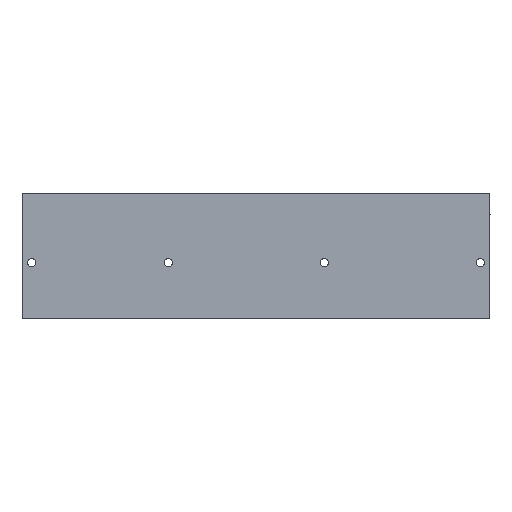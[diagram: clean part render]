
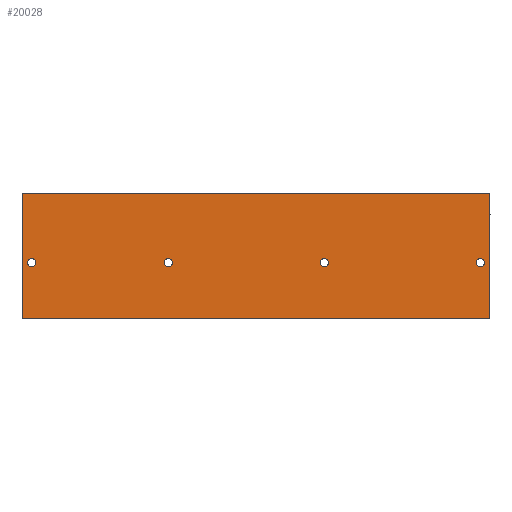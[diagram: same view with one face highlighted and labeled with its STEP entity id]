
A CAD part, front view. The second image highlights one B-rep face of the part: STEP entity #20028.
In plain terms, the highlighted planar face has unit normal (0, -1, 0).
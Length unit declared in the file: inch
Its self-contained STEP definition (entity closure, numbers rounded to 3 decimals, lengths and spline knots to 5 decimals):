
#794 = DIRECTION ( 'NONE',  ( 0., 1., 0. ) ) ;
#832 = DIRECTION ( 'NONE',  ( 0., 1., 0. ) ) ;
#873 = VECTOR ( 'NONE', #10802, 39.37008 ) ;
#1033 = EDGE_LOOP ( 'NONE', ( #31259, #5307 ) ) ;
#2551 = EDGE_CURVE ( 'NONE', #5039, #13147, #22939, .T. ) ;
#3803 = DIRECTION ( 'NONE',  ( 0., 1., 0. ) ) ;
#3935 = VERTEX_POINT ( 'NONE', #10216 ) ;
#4069 = CARTESIAN_POINT ( 'NONE',  ( 12.6, 0., -2.728 ) ) ;
#4794 = FACE_OUTER_BOUND ( 'NONE', #6541, .T. ) ;
#5039 = VERTEX_POINT ( 'NONE', #14691 ) ;
#5275 = VECTOR ( 'NONE', #32898, 39.37008 ) ;
#5285 = EDGE_LOOP ( 'NONE', ( #10018, #11753 ) ) ;
#5307 = ORIENTED_EDGE ( 'NONE', *, *, #10242, .T. ) ;
#5323 = AXIS2_PLACEMENT_3D ( 'NONE', #29349, #13474, #32018 ) ;
#5647 = VERTEX_POINT ( 'NONE', #16361 ) ;
#6145 = DIRECTION ( 'NONE',  ( 0., 1., 0. ) ) ;
#6250 = DIRECTION ( 'NONE',  ( 0., 1., 0. ) ) ;
#6541 = EDGE_LOOP ( 'NONE', ( #10881, #25867, #9621, #11345 ) ) ;
#6987 = EDGE_LOOP ( 'NONE', ( #30875, #18480 ) ) ;
#8158 = CIRCLE ( 'NONE', #14475, 0.172 ) ;
#8610 = DIRECTION ( 'NONE',  ( 0., 1., 0. ) ) ;
#8726 = VECTOR ( 'NONE', #34260, 39.37008 ) ;
#9621 = ORIENTED_EDGE ( 'NONE', *, *, #19410, .F. ) ;
#10018 = ORIENTED_EDGE ( 'NONE', *, *, #12045, .T. ) ;
#10216 = CARTESIAN_POINT ( 'NONE',  ( 19.1, 0., -3.072 ) ) ;
#10242 = EDGE_CURVE ( 'NONE', #11164, #29631, #14952, .T. ) ;
#10533 = CARTESIAN_POINT ( 'NONE',  ( 0., 0., -5.25 ) ) ;
#10802 = DIRECTION ( 'NONE',  ( -1., 0., 0. ) ) ;
#10881 = ORIENTED_EDGE ( 'NONE', *, *, #18117, .T. ) ;
#11048 = CARTESIAN_POINT ( 'NONE',  ( 19.1, 0., -2.9 ) ) ;
#11100 = CARTESIAN_POINT ( 'NONE',  ( 6.1, 0., -2.728 ) ) ;
#11164 = VERTEX_POINT ( 'NONE', #19639 ) ;
#11228 = EDGE_CURVE ( 'NONE', #29631, #11164, #30662, .T. ) ;
#11345 = ORIENTED_EDGE ( 'NONE', *, *, #2551, .T. ) ;
#11358 = DIRECTION ( 'NONE',  ( 0., 1., 0. ) ) ;
#11578 = EDGE_CURVE ( 'NONE', #14710, #13734, #13628, .T. ) ;
#11753 = ORIENTED_EDGE ( 'NONE', *, *, #21423, .T. ) ;
#12042 = CARTESIAN_POINT ( 'NONE',  ( 0., 0., 0. ) ) ;
#12045 = EDGE_CURVE ( 'NONE', #31160, #28629, #29359, .T. ) ;
#13147 = VERTEX_POINT ( 'NONE', #16040 ) ;
#13371 = LINE ( 'NONE', #27421, #5275 ) ;
#13474 = DIRECTION ( 'NONE',  ( 0., 1., 0. ) ) ;
#13628 = CIRCLE ( 'NONE', #26977, 0.172 ) ;
#13734 = VERTEX_POINT ( 'NONE', #26512 ) ;
#13803 = DIRECTION ( 'NONE',  ( 0., 0., 1. ) ) ;
#13826 = EDGE_CURVE ( 'NONE', #34123, #29530, #15327, .T. ) ;
#14475 = AXIS2_PLACEMENT_3D ( 'NONE', #22318, #6250, #24951 ) ;
#14562 = EDGE_CURVE ( 'NONE', #5647, #3935, #30593, .T. ) ;
#14691 = CARTESIAN_POINT ( 'NONE',  ( 19.5, 0., 0. ) ) ;
#14710 = VERTEX_POINT ( 'NONE', #4069 ) ;
#14952 = CIRCLE ( 'NONE', #5323, 0.172 ) ;
#15327 = LINE ( 'NONE', #24055, #873 ) ;
#16040 = CARTESIAN_POINT ( 'NONE',  ( 0., 0., 0. ) ) ;
#16361 = CARTESIAN_POINT ( 'NONE',  ( 19.1, 0., -2.728 ) ) ;
#17019 = PLANE ( 'NONE',  #18036 ) ;
#17066 = CARTESIAN_POINT ( 'NONE',  ( 12.6, 0., -2.9 ) ) ;
#17605 = ORIENTED_EDGE ( 'NONE', *, *, #11578, .T. ) ;
#18036 = AXIS2_PLACEMENT_3D ( 'NONE', #19555, #794, #19668 ) ;
#18117 = EDGE_CURVE ( 'NONE', #13147, #29530, #23773, .T. ) ;
#18480 = ORIENTED_EDGE ( 'NONE', *, *, #23423, .T. ) ;
#19017 = CARTESIAN_POINT ( 'NONE',  ( 19.5, 0., -5.25 ) ) ;
#19168 = FACE_BOUND ( 'NONE', #1033, .T. ) ;
#19410 = EDGE_CURVE ( 'NONE', #5039, #34123, #13371, .T. ) ;
#19555 = CARTESIAN_POINT ( 'NONE',  ( 19.5, 0., 0. ) ) ;
#19592 = CIRCLE ( 'NONE', #31454, 0.172 ) ;
#19639 = CARTESIAN_POINT ( 'NONE',  ( 6.1, 0., -3.072 ) ) ;
#19668 = DIRECTION ( 'NONE',  ( 0., 0., 1. ) ) ;
#19704 = DIRECTION ( 'NONE',  ( 0., 0., 1. ) ) ;
#19972 = CARTESIAN_POINT ( 'NONE',  ( 6.1, 0., -2.9 ) ) ;
#20028 = ADVANCED_FACE ( 'NONE', ( #19168, #33224, #32386, #25295, #4794 ), #17019, .F. ) ;
#21423 = EDGE_CURVE ( 'NONE', #28629, #31160, #34241, .T. ) ;
#22218 = CARTESIAN_POINT ( 'NONE',  ( 0.4, 0., -2.9 ) ) ;
#22318 = CARTESIAN_POINT ( 'NONE',  ( 12.6, 0., -2.9 ) ) ;
#22608 = DIRECTION ( 'NONE',  ( 0., 0., 1. ) ) ;
#22939 = LINE ( 'NONE', #34692, #8726 ) ;
#23423 = EDGE_CURVE ( 'NONE', #3935, #5647, #19592, .T. ) ;
#23773 = LINE ( 'NONE', #12042, #30876 ) ;
#24055 = CARTESIAN_POINT ( 'NONE',  ( 19.5, 0., -5.25 ) ) ;
#24587 = CARTESIAN_POINT ( 'NONE',  ( 0.4, 0., -2.9 ) ) ;
#24847 = DIRECTION ( 'NONE',  ( 0., 0., 1. ) ) ;
#24951 = DIRECTION ( 'NONE',  ( 0., 0., 1. ) ) ;
#25295 = FACE_BOUND ( 'NONE', #6987, .T. ) ;
#25346 = EDGE_LOOP ( 'NONE', ( #17605, #33324 ) ) ;
#25348 = DIRECTION ( 'NONE',  ( 0., 0., -1. ) ) ;
#25777 = CARTESIAN_POINT ( 'NONE',  ( 0.4, 0., -3.072 ) ) ;
#25867 = ORIENTED_EDGE ( 'NONE', *, *, #13826, .F. ) ;
#26001 = AXIS2_PLACEMENT_3D ( 'NONE', #24587, #8610, #27268 ) ;
#26512 = CARTESIAN_POINT ( 'NONE',  ( 12.6, 0., -3.072 ) ) ;
#26977 = AXIS2_PLACEMENT_3D ( 'NONE', #17066, #832, #19704 ) ;
#27258 = CARTESIAN_POINT ( 'NONE',  ( 19.1, 0., -2.9 ) ) ;
#27268 = DIRECTION ( 'NONE',  ( 0., 0., 1. ) ) ;
#27421 = CARTESIAN_POINT ( 'NONE',  ( 19.5, 0., 0. ) ) ;
#27687 = AXIS2_PLACEMENT_3D ( 'NONE', #19972, #3803, #22608 ) ;
#28629 = VERTEX_POINT ( 'NONE', #25777 ) ;
#29349 = CARTESIAN_POINT ( 'NONE',  ( 6.1, 0., -2.9 ) ) ;
#29359 = CIRCLE ( 'NONE', #26001, 0.172 ) ;
#29530 = VERTEX_POINT ( 'NONE', #10533 ) ;
#29629 = CARTESIAN_POINT ( 'NONE',  ( 0.4, 0., -2.728 ) ) ;
#29631 = VERTEX_POINT ( 'NONE', #11100 ) ;
#29684 = DIRECTION ( 'NONE',  ( 0., 1., 0. ) ) ;
#29916 = AXIS2_PLACEMENT_3D ( 'NONE', #27258, #11358, #29967 ) ;
#29967 = DIRECTION ( 'NONE',  ( 0., 0., 1. ) ) ;
#30593 = CIRCLE ( 'NONE', #29916, 0.172 ) ;
#30662 = CIRCLE ( 'NONE', #27687, 0.172 ) ;
#30834 = AXIS2_PLACEMENT_3D ( 'NONE', #22218, #6145, #24847 ) ;
#30875 = ORIENTED_EDGE ( 'NONE', *, *, #14562, .T. ) ;
#30876 = VECTOR ( 'NONE', #25348, 39.37008 ) ;
#31160 = VERTEX_POINT ( 'NONE', #29629 ) ;
#31259 = ORIENTED_EDGE ( 'NONE', *, *, #11228, .T. ) ;
#31454 = AXIS2_PLACEMENT_3D ( 'NONE', #11048, #29684, #13803 ) ;
#32018 = DIRECTION ( 'NONE',  ( 0., 0., 1. ) ) ;
#32386 = FACE_BOUND ( 'NONE', #5285, .T. ) ;
#32750 = EDGE_CURVE ( 'NONE', #13734, #14710, #8158, .T. ) ;
#32898 = DIRECTION ( 'NONE',  ( 0., 0., -1. ) ) ;
#33224 = FACE_BOUND ( 'NONE', #25346, .T. ) ;
#33324 = ORIENTED_EDGE ( 'NONE', *, *, #32750, .T. ) ;
#34123 = VERTEX_POINT ( 'NONE', #19017 ) ;
#34241 = CIRCLE ( 'NONE', #30834, 0.172 ) ;
#34260 = DIRECTION ( 'NONE',  ( -1., 0., 0. ) ) ;
#34692 = CARTESIAN_POINT ( 'NONE',  ( 19.5, 0., 0. ) ) ;
